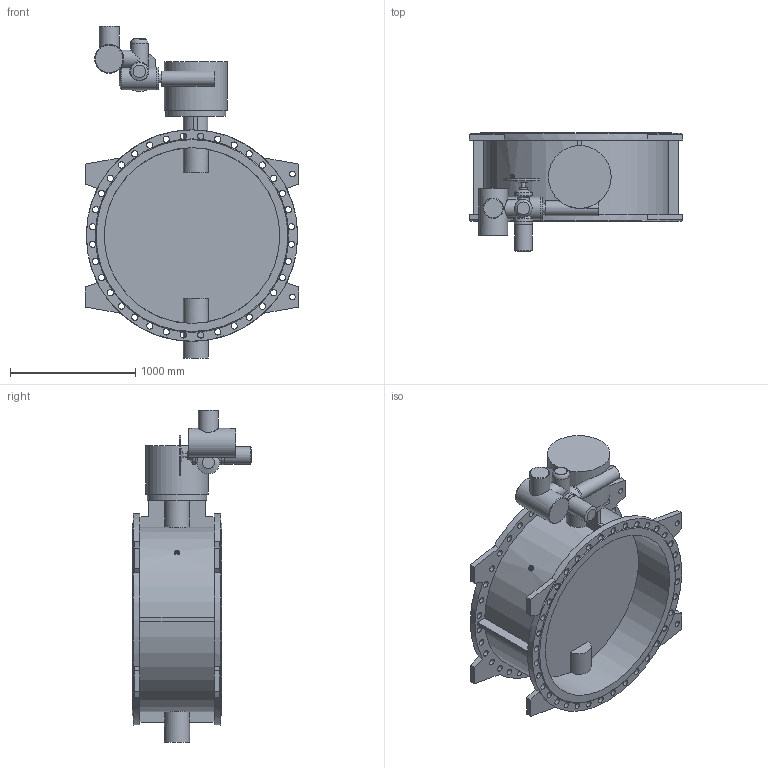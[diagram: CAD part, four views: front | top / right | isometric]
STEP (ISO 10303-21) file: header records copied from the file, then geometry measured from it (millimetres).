
FILE_DESCRIPTION(('STEP AP203'), '1');
FILE_NAME('Çàòâîð 023F.Z DN1400 PN16 + ðåäóêòîð + ÌÒ903.À30 ñ ÁÓ', '', ('UNSPECIFIED'), ('UNSPECIFIED'), 'ASCON STEP Converter 1.6', 'ASCON Math Kernel', '');
FILE_SCHEMA(('CONFIG_CONTROL_DESIGN'));
Length unit declared in the file: millimetre
Bounding box: 1700 x 949 x 2646 mm (x, y, z)
Volume: 489614121.5 mm3; surface area: 15424926.9 mm2
Topology: 1 solids, 1 shells, 278 faces, 826 edges, 520 vertices
Faces by surface type: cylinder 144, plane 120, cone 13, torus 1
Full cylindrical faces by diameter (mm): 14 x4, 18 x4, 32 x1, 33 x8, 39 x8, 45 x4, 50 x72, 60 x1, 70 x1, 100 x1, 120 x1, 140 x4, 147 x1, 151 x1, 160 x1, 175 x1, 180 x1, 200 x1, 230 x1, 475 x1, 500 x1, 1400 x2, 1685 x2
Entity records: 13508 total; most frequent: CARTESIAN_POINT 3652, DIRECTION 1651, ORIENTED_EDGE 1376, AXIS2_PLACEMENT_3D 726, EDGE_CURVE 688, EDGE_LOOP 603, VERTEX_POINT 519, CIRCLE 448
